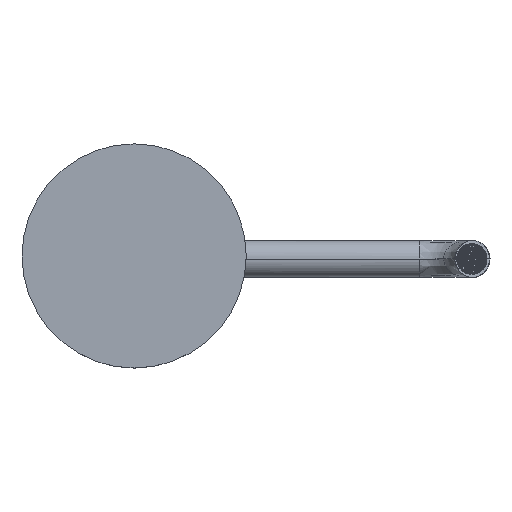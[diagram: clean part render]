
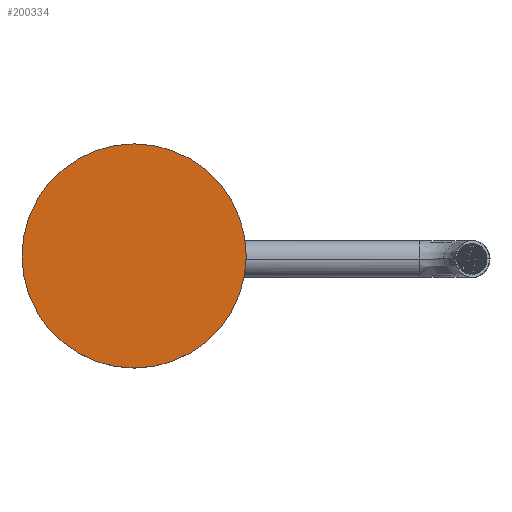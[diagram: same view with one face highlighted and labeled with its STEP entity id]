
A CAD part, top view. The second image highlights one B-rep face of the part: STEP entity #200334.
In plain terms, the highlighted planar face has unit normal (0, 0, 1).
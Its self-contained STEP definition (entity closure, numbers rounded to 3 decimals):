
#2484 = DIRECTION ( 'NONE',  ( 1., 0., 0. ) ) ;
#9904 = VERTEX_POINT ( 'NONE', #133108 ) ;
#14139 = CIRCLE ( 'NONE', #171542, 70. ) ;
#17072 = EDGE_CURVE ( 'NONE', #27729, #9904, #14139, .T. ) ;
#18823 = ORIENTED_EDGE ( 'NONE', *, *, #17072, .T. ) ;
#23849 = DIRECTION ( 'NONE',  ( 0., 0., 1. ) ) ;
#27590 = CARTESIAN_POINT ( 'NONE',  ( 0., 0., 1018. ) ) ;
#27729 = VERTEX_POINT ( 'NONE', #158299 ) ;
#39942 = DIRECTION ( 'NONE',  ( 0., 0., 1. ) ) ;
#40327 = DIRECTION ( 'NONE',  ( 1., 0., 0. ) ) ;
#80596 = DIRECTION ( 'NONE',  ( 0., 0., 1. ) ) ;
#81576 = CARTESIAN_POINT ( 'NONE',  ( 0., 0., 1018. ) ) ;
#121945 = DIRECTION ( 'NONE',  ( 1., 0., 0. ) ) ;
#124396 = CIRCLE ( 'NONE', #127762, 70. ) ;
#127762 = AXIS2_PLACEMENT_3D ( 'NONE', #81576, #80596, #2484 ) ;
#133108 = CARTESIAN_POINT ( 'NONE',  ( 70., 0., 1018. ) ) ;
#139462 = AXIS2_PLACEMENT_3D ( 'NONE', #164513, #23849, #40327 ) ;
#155427 = EDGE_CURVE ( 'NONE', #9904, #27729, #124396, .T. ) ;
#158299 = CARTESIAN_POINT ( 'NONE',  ( -70., 0., 1018. ) ) ;
#160264 = ORIENTED_EDGE ( 'NONE', *, *, #155427, .T. ) ;
#164513 = CARTESIAN_POINT ( 'NONE',  ( 0., 0., 1018. ) ) ;
#166525 = FACE_OUTER_BOUND ( 'NONE', #179458, .T. ) ;
#171542 = AXIS2_PLACEMENT_3D ( 'NONE', #27590, #39942, #121945 ) ;
#179458 = EDGE_LOOP ( 'NONE', ( #18823, #160264 ) ) ;
#179891 = PLANE ( 'NONE',  #139462 ) ;
#200334 = ADVANCED_FACE ( 'NONE', ( #166525 ), #179891, .T. ) ;
